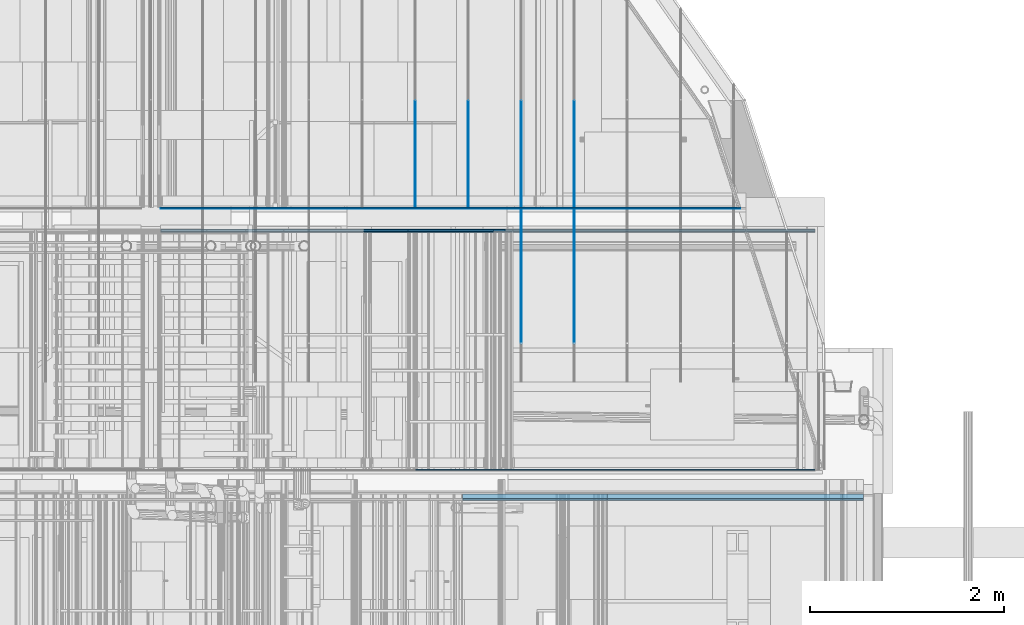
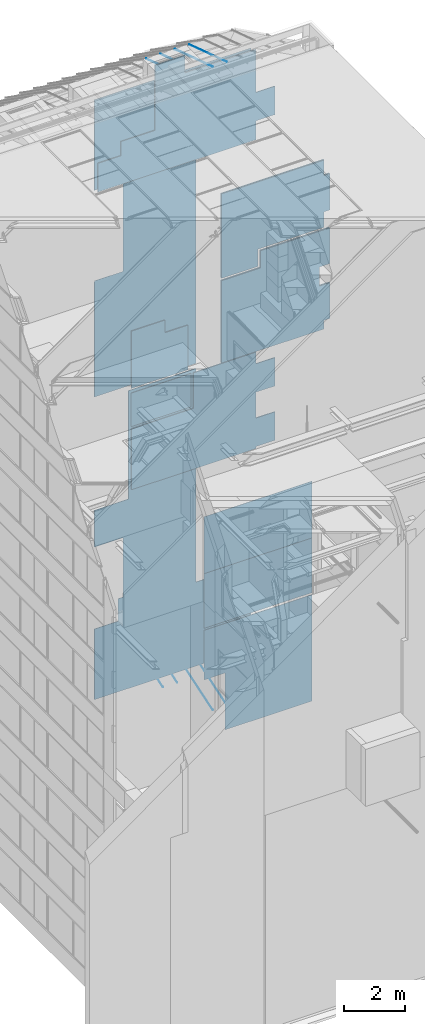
# One storey, part 284 of 583: 26 slabs.
"""IFC2X3 building model written with IfcOpenShell, lengths in metres."""

from ifc_helpers import new_model, entity, si_unit, converted_unit, derived_unit, money_unit, direction, frame, origin_with_axes, place, context, subcontext, project, spatial, faceted_brep, material, type_object, element, save


model = new_model("IFC2X3")

# Units and contexts
model_context = context("Model", 3, precision=1e-05, world=origin_with_axes(), true_north=direction((0.0, 1.0)))
body_context = subcontext(model_context, "Body", "Model", "MODEL_VIEW", scale=1.0)
ifc_project = project(units=[si_unit("LENGTHUNIT", "METRE"), si_unit("AREAUNIT", "SQUARE_METRE"), si_unit("VOLUMEUNIT", "CUBIC_METRE"), si_unit("ABSORBEDDOSEUNIT", "GRAY"), si_unit("AMOUNTOFSUBSTANCEUNIT", "MOLE"), si_unit("DOSEEQUIVALENTUNIT", "SIEVERT"), si_unit("ELECTRICCAPACITANCEUNIT", "FARAD"), si_unit("ELECTRICCHARGEUNIT", "COULOMB"), si_unit("ELECTRICCONDUCTANCEUNIT", "SIEMENS"), si_unit("ELECTRICCURRENTUNIT", "AMPERE"), si_unit("ELECTRICRESISTANCEUNIT", "OHM"), si_unit("ELECTRICVOLTAGEUNIT", "VOLT"), si_unit("ENERGYUNIT", "JOULE"), si_unit("FORCEUNIT", "NEWTON"), si_unit("FREQUENCYUNIT", "HERTZ"), si_unit("ILLUMINANCEUNIT", "LUX"), si_unit("INDUCTANCEUNIT", "HENRY"), si_unit("LUMINOUSFLUXUNIT", "LUMEN"), si_unit("LUMINOUSINTENSITYUNIT", "CANDELA"), si_unit("MAGNETICFLUXDENSITYUNIT", "TESLA"), si_unit("MAGNETICFLUXUNIT", "WEBER"), si_unit("MASSUNIT", "GRAM"), converted_unit("PLANEANGLEUNIT", "degree", entity("IfcReal", 0.0174532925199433), si_unit("PLANEANGLEUNIT", "RADIAN"), dimensions=[0, 0, 0, 0, 0, 0, 0]), si_unit("POWERUNIT", "WATT"), si_unit("PRESSUREUNIT", "PASCAL"), si_unit("RADIOACTIVITYUNIT", "BECQUEREL"), si_unit("SOLIDANGLEUNIT", "STERADIAN"), si_unit("THERMODYNAMICTEMPERATUREUNIT", "KELVIN"), si_unit("TIMEUNIT", "SECOND"), derived_unit("ACCELERATIONUNIT", [(si_unit("LENGTHUNIT", "METRE"), 1), (si_unit("TIMEUNIT", "SECOND"), -2)]), derived_unit("ANGULARVELOCITYUNIT", [(converted_unit("PLANEANGLEUNIT", "degree", entity("IfcReal", 0.0174532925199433), si_unit("PLANEANGLEUNIT", "RADIAN"), dimensions=[0, 0, 0, 0, 0, 0, 0]), 1), (si_unit("TIMEUNIT", "SECOND"), -1)]), derived_unit("CURVATUREUNIT", [(converted_unit("PLANEANGLEUNIT", "degree", entity("IfcReal", 0.0174532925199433), si_unit("PLANEANGLEUNIT", "RADIAN"), dimensions=[0, 0, 0, 0, 0, 0, 0]), 1), (si_unit("LENGTHUNIT", "METRE"), -1)]), derived_unit("DYNAMICVISCOSITYUNIT", [(si_unit("PRESSUREUNIT", "PASCAL"), 1), (si_unit("TIMEUNIT", "SECOND"), 1)]), derived_unit("HEATFLUXDENSITYUNIT", [(si_unit("POWERUNIT", "WATT"), 1), (si_unit("LENGTHUNIT", "METRE"), -2)]), derived_unit("HEATINGVALUEUNIT", [(si_unit("ENERGYUNIT", "JOULE"), 1), (si_unit("MASSUNIT", "GRAM"), -1)]), derived_unit("INTEGERCOUNTRATEUNIT", [(si_unit("TIMEUNIT", "SECOND"), -1)]), derived_unit("IONCONCENTRATIONUNIT", [(si_unit("MASSUNIT", "GRAM"), 1), (si_unit("VOLUMEUNIT", "CUBIC_METRE"), -1)]), derived_unit("ISOTHERMALMOISTURECAPACITYUNIT", [(si_unit("VOLUMEUNIT", "CUBIC_METRE"), 1), (si_unit("MASSUNIT", "GRAM"), -1)]), derived_unit("KINEMATICVISCOSITYUNIT", [(si_unit("AREAUNIT", "SQUARE_METRE"), 1), (si_unit("TIMEUNIT", "SECOND"), -1)]), derived_unit("LINEARFORCEUNIT", [(si_unit("FORCEUNIT", "NEWTON"), 1), (si_unit("LENGTHUNIT", "METRE"), -1)]), derived_unit("LINEARMOMENTUNIT", [(si_unit("FORCEUNIT", "NEWTON"), 1), (si_unit("LENGTHUNIT", "METRE"), -1)]), derived_unit("LINEARSTIFFNESSUNIT", [(si_unit("FORCEUNIT", "NEWTON"), 1), (si_unit("LENGTHUNIT", "METRE"), -1)]), derived_unit("LINEARVELOCITYUNIT", [(si_unit("LENGTHUNIT", "METRE"), 1), (si_unit("TIMEUNIT", "SECOND"), -1)]), derived_unit("LUMINOUSINTENSITYDISTRIBUTIONUNIT", [(si_unit("LUMINOUSINTENSITYUNIT", "CANDELA"), 1), (si_unit("LUMINOUSFLUXUNIT", "LUMEN"), -1)]), derived_unit("MASSDENSITYUNIT", [(si_unit("MASSUNIT", "GRAM"), 1), (si_unit("VOLUMEUNIT", "CUBIC_METRE"), -1)]), derived_unit("MASSFLOWRATEUNIT", [(si_unit("MASSUNIT", "GRAM"), 1), (si_unit("TIMEUNIT", "SECOND"), -1)]), derived_unit("MASSPERLENGTHUNIT", [(si_unit("MASSUNIT", "GRAM"), 1), (si_unit("LENGTHUNIT", "METRE"), -1)]), derived_unit("MODULUSOFELASTICITYUNIT", [(si_unit("FORCEUNIT", "NEWTON"), 1), (si_unit("AREAUNIT", "SQUARE_METRE"), -1)]), derived_unit("MODULUSOFLINEARSUBGRADEREACTIONUNIT", [(si_unit("FORCEUNIT", "NEWTON"), 1), (si_unit("LENGTHUNIT", "METRE"), -2)]), derived_unit("MODULUSOFROTATIONALSUBGRADEREACTIONUNIT", [(si_unit("FORCEUNIT", "NEWTON"), 1), (si_unit("LENGTHUNIT", "METRE"), 1)]), derived_unit("MODULUSOFSUBGRADEREACTIONUNIT", [(si_unit("FORCEUNIT", "NEWTON"), 1), (si_unit("VOLUMEUNIT", "CUBIC_METRE"), -1)]), derived_unit("MOISTUREDIFFUSIVITYUNIT", [(si_unit("VOLUMEUNIT", "CUBIC_METRE"), 1), (si_unit("TIMEUNIT", "SECOND"), -1)]), derived_unit("MOLECULARWEIGHTUNIT", [(si_unit("MASSUNIT", "GRAM"), 1), (si_unit("AMOUNTOFSUBSTANCEUNIT", "MOLE"), -1)]), derived_unit("PLANARFORCEUNIT", [(si_unit("FORCEUNIT", "NEWTON"), 1), (si_unit("LENGTHUNIT", "METRE"), -2)]), derived_unit("ROTATIONALFREQUENCYUNIT", [(si_unit("TIMEUNIT", "SECOND"), -1)]), derived_unit("ROTATIONALMASSUNIT", [(si_unit("MASSUNIT", "GRAM"), 1), (si_unit("LENGTHUNIT", "METRE"), 2)]), derived_unit("ROTATIONALSTIFFNESSUNIT", [(si_unit("FORCEUNIT", "NEWTON"), 1), (si_unit("LENGTHUNIT", "METRE"), 1), (converted_unit("PLANEANGLEUNIT", "degree", entity("IfcReal", 0.0174532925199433), si_unit("PLANEANGLEUNIT", "RADIAN"), dimensions=[0, 0, 0, 0, 0, 0, 0]), -1)]), derived_unit("SECTIONAREAINTEGRALUNIT", [(si_unit("LENGTHUNIT", "METRE"), 5)]), derived_unit("SECTIONMODULUSUNIT", [(si_unit("LENGTHUNIT", "METRE"), 3)]), derived_unit("SHEARMODULUSUNIT", [(si_unit("FORCEUNIT", "NEWTON"), 1), (si_unit("AREAUNIT", "SQUARE_METRE"), -1)]), derived_unit("SOUNDPOWERUNIT", [(si_unit("ENERGYUNIT", "JOULE"), 1), (si_unit("TIMEUNIT", "SECOND"), -1)]), derived_unit("SPECIFICHEATCAPACITYUNIT", [(si_unit("FORCEUNIT", "NEWTON"), 1), (si_unit("MASSUNIT", "GRAM"), -1), (si_unit("THERMODYNAMICTEMPERATUREUNIT", "KELVIN"), -1)]), derived_unit("TEMPERATUREGRADIENTUNIT", [(si_unit("THERMODYNAMICTEMPERATUREUNIT", "KELVIN"), 1), (si_unit("LENGTHUNIT", "METRE"), -1)]), derived_unit("THERMALADMITTANCEUNIT", [(si_unit("POWERUNIT", "WATT"), 1), (si_unit("AREAUNIT", "SQUARE_METRE"), -1), (si_unit("THERMODYNAMICTEMPERATUREUNIT", "KELVIN"), -1)]), derived_unit("THERMALCONDUCTANCEUNIT", [(si_unit("POWERUNIT", "WATT"), 1), (si_unit("LENGTHUNIT", "METRE"), -1), (si_unit("THERMODYNAMICTEMPERATUREUNIT", "KELVIN"), -1)]), derived_unit("THERMALEXPANSIONCOEFFICIENTUNIT", [(si_unit("THERMODYNAMICTEMPERATUREUNIT", "KELVIN"), -1)]), derived_unit("THERMALRESISTANCEUNIT", [(si_unit("AREAUNIT", "SQUARE_METRE"), 1), (si_unit("POWERUNIT", "WATT"), -1)]), derived_unit("THERMALTRANSMITTANCEUNIT", [(si_unit("POWERUNIT", "WATT"), 1), (si_unit("AREAUNIT", "SQUARE_METRE"), -1), (si_unit("THERMODYNAMICTEMPERATUREUNIT", "KELVIN"), -1)]), derived_unit("TORQUEUNIT", [(si_unit("FORCEUNIT", "NEWTON"), 1), (si_unit("LENGTHUNIT", "METRE"), 1)]), derived_unit("VAPORPERMEABILITYUNIT", [(si_unit("MASSUNIT", "GRAM"), 1), (si_unit("TIMEUNIT", "SECOND"), -1)]), derived_unit("VOLUMETRICFLOWRATEUNIT", [(si_unit("VOLUMEUNIT", "CUBIC_METRE"), 1), (si_unit("TIMEUNIT", "SECOND"), -1)]), derived_unit("WARPINGCONSTANTUNIT", [(si_unit("LENGTHUNIT", "METRE"), 6)]), derived_unit("WARPINGMOMENTUNIT", [(si_unit("FORCEUNIT", "NEWTON"), 1), (si_unit("LENGTHUNIT", "METRE"), 2)]), money_unit("GBP")], contexts=[model_context])

# Site, building, storey
site_placement = place(None, origin_with_axes())
site = spatial("IfcSite", under=ifc_project, at=site_placement, Name="Site", CompositionType="ELEMENT")
building_placement = place(site_placement, origin_with_axes())
building = spatial("IfcBuilding", under=site, at=building_placement, Name="Building01", CompositionType="ELEMENT")
storey_placement = place(building_placement, frame((0.0, 0.0, 20.78), z_axis=(0.0, 0.0, 1.0), x_axis=(1.0, 0.0, 0.0)))
storey = spatial("IfcBuildingStorey", under=building, at=storey_placement, Name="RL", CompositionType="ELEMENT", Elevation=20.78)

# Slabs
ifc_material_1 = material(Name="A_BSUK_CeilingSoffitFinishes_Suspended")
slab_type_1 = type_object("IfcSlabType", Name="A-FloorsSlabs A_BSUK_Slabs", PredefinedType="FLOOR")
placement = place(storey_placement, frame((0.0, 0.0, -20.78), z_axis=(0.0, 0.0, 1.0), x_axis=(1.0, 0.0, 0.0)))
element("IfcSlab", 1, at=placement, inside=storey, type_object=slab_type_1, material=ifc_material_1, Name="A-FloorsSlabs A_BSUK_Slabs", ObjectType="CompoundSlabLeaf", context=body_context, shape_type="Brep", body=[
    faceted_brep([(10.665, 14.658, 15.708132), (10.665, 14.673, 15.708132), (14.582, 14.673, 15.708132), (14.582, 14.658, 15.708132), (10.665, 14.658, 19.025284), (10.665, 14.673, 19.025284), (12.159378, 14.658, 19.025284), (12.159378, 14.673, 19.025284), (12.159378, 14.658, 19.715), (12.159378, 14.673, 19.715), (14.8, 14.658, 19.715), (14.8, 14.673, 19.715), (14.8, 14.658, 18.268), (14.8, 14.673, 18.268), (14.402, 14.658, 18.268), (14.402, 14.673, 18.268), (14.402, 14.658, 17.502), (14.402, 14.673, 17.502), (14.8, 14.658, 17.502), (14.8, 14.673, 17.502), (14.8, 14.658, 16.055), (14.8, 14.673, 16.055), (14.582, 14.658, 16.055), (14.582, 14.673, 16.055)], [[[0, 1, 2, 3]], [[4, 5, 1, 0]], [[6, 7, 5, 4]], [[8, 9, 7, 6]], [[10, 11, 9, 8]], [[12, 13, 11, 10]], [[14, 15, 13, 12]], [[16, 17, 15, 14]], [[18, 19, 17, 16]], [[20, 21, 19, 18]], [[22, 23, 21, 20]], [[3, 2, 23, 22]], [[1, 5, 7, 9, 11, 13, 15, 17, 19, 21, 23, 2]], [[3, 22, 20, 18, 16, 14, 12, 10, 8, 6, 4, 0]]]),
])
element("IfcSlab", 2, at=placement, inside=storey, type_object=slab_type_1, material=ifc_material_1, Name="A-FloorsSlabs A_BSUK_Slabs", ObjectType="CompoundSlabLeaf", context=body_context, shape_type="Brep", body=[
    faceted_brep([(12.064378, 14.658, 19.81), (12.064378, 14.673, 19.81), (14.582, 14.673, 19.81), (14.582, 14.658, 19.81), (12.064378, 14.658, 19.120284), (12.064378, 14.673, 19.120284), (10.665, 14.658, 19.120284), (10.665, 14.673, 19.120284), (10.665, 14.658, 22.53), (10.665, 14.673, 22.53), (14.582, 14.658, 22.53), (14.582, 14.673, 22.53), (14.582, 14.658, 21.905), (14.582, 14.673, 21.905), (14.8, 14.658, 21.905), (14.8, 14.673, 21.905), (14.8, 14.658, 20.435), (14.8, 14.673, 20.435), (14.582, 14.658, 20.435), (14.582, 14.673, 20.435)], [[[0, 1, 2, 3]], [[4, 5, 1, 0]], [[6, 7, 5, 4]], [[8, 9, 7, 6]], [[10, 11, 9, 8]], [[12, 13, 11, 10]], [[14, 15, 13, 12]], [[16, 17, 15, 14]], [[18, 19, 17, 16]], [[3, 2, 19, 18]], [[1, 5, 7, 9, 11, 13, 15, 17, 19, 2]], [[3, 18, 16, 14, 12, 10, 8, 6, 4, 0]]]),
])
element("IfcSlab", 3, at=placement, inside=storey, type_object=slab_type_1, material=ifc_material_1, Name="A-FloorsSlabs A_BSUK_Slabs", ObjectType="CompoundSlabLeaf", context=body_context, shape_type="Brep", body=[
    faceted_brep([(8.82, 17.423, 12.017381), (8.82, 17.438, 12.017381), (8.82, 17.438, 9.560024), (8.82, 17.423, 9.560024), (11.183849, 17.423, 12.017381), (11.183849, 17.438, 12.017381), (11.183849, 17.423, 13.45), (11.183849, 17.438, 13.45), (13.587598, 17.423, 13.45), (13.587598, 17.438, 13.45), (13.587598, 17.423, 12.979976), (13.587598, 17.438, 12.979976), (14.300061, 17.423, 12.979976), (14.300061, 17.438, 12.979976), (14.300061, 17.423, 11.830024), (14.300061, 17.438, 11.830024), (13.587598, 17.423, 11.830024), (13.587598, 17.438, 11.830024), (13.587598, 17.423, 10.789976), (13.587598, 17.438, 10.789976), (14.300061, 17.423, 10.789976), (14.300061, 17.438, 10.789976), (14.300061, 17.423, 9.640024), (14.300061, 17.438, 9.640024), (13.587598, 17.423, 9.640024), (13.587598, 17.438, 9.640024), (13.587598, 17.423, 9.560024), (13.587598, 17.438, 9.560024)], [[[0, 1, 2, 3]], [[4, 5, 1, 0]], [[6, 7, 5, 4]], [[8, 9, 7, 6]], [[10, 11, 9, 8]], [[12, 13, 11, 10]], [[14, 15, 13, 12]], [[16, 17, 15, 14]], [[18, 19, 17, 16]], [[20, 21, 19, 18]], [[22, 23, 21, 20]], [[24, 25, 23, 22]], [[26, 27, 25, 24]], [[3, 2, 27, 26]], [[1, 5, 7, 9, 11, 13, 15, 17, 19, 21, 23, 25, 27, 2]], [[3, 26, 24, 22, 20, 18, 16, 14, 12, 10, 8, 6, 4, 0]]]),
])
element("IfcSlab", 4, at=placement, inside=storey, type_object=slab_type_1, material=ifc_material_1, Name="A-FloorsSlabs A_BSUK_Slabs", ObjectType="CompoundSlabLeaf", context=body_context, shape_type="Brep", body=[
    faceted_brep([(7.549915, 17.423, 22.019976), (7.549915, 17.438, 22.019976), (13.587598, 17.438, 22.019976), (13.587598, 17.423, 22.019976), (7.549915, 17.423, 23.178821), (7.549915, 17.438, 23.178821), (8.429915, 17.423, 23.178821), (8.429915, 17.438, 23.178821), (8.429915, 17.423, 23.75), (8.429915, 17.438, 23.75), (9.724915, 17.423, 23.75), (9.724915, 17.438, 23.75), (9.724915, 17.423, 26.380061), (9.724915, 17.438, 26.380061), (10.874915, 17.423, 26.380061), (10.874915, 17.438, 26.380061), (10.874915, 17.423, 25.667598), (10.874915, 17.438, 25.667598), (13.587598, 17.423, 25.667598), (13.587598, 17.438, 25.667598), (13.587598, 17.423, 23.930024), (13.587598, 17.438, 23.930024), (14.300061, 17.423, 23.930024), (14.300061, 17.438, 23.930024), (14.300061, 17.423, 22.780024), (14.300061, 17.438, 22.780024), (13.587598, 17.423, 22.780024), (13.587598, 17.438, 22.780024)], [[[0, 1, 2, 3]], [[4, 5, 1, 0]], [[6, 7, 5, 4]], [[8, 9, 7, 6]], [[10, 11, 9, 8]], [[12, 13, 11, 10]], [[14, 15, 13, 12]], [[16, 17, 15, 14]], [[18, 19, 17, 16]], [[20, 21, 19, 18]], [[22, 23, 21, 20]], [[24, 25, 23, 22]], [[26, 27, 25, 24]], [[3, 2, 27, 26]], [[1, 5, 7, 9, 11, 13, 15, 17, 19, 21, 23, 25, 27, 2]], [[3, 26, 24, 22, 20, 18, 16, 14, 12, 10, 8, 6, 4, 0]]]),
])
element("IfcSlab", 5, at=placement, inside=storey, type_object=slab_type_1, material=ifc_material_1, Name="A-FloorsSlabs A_BSUK_Slabs", ObjectType="CompoundSlabLeaf", context=body_context, shape_type="Brep", body=[
    faceted_brep([(8.82, 17.423, 13.65), (8.82, 17.438, 13.65), (10.983789, 17.438, 13.65), (10.983789, 17.423, 13.65), (8.82, 17.423, 15.95844), (8.82, 17.438, 15.95844), (10.099939, 17.423, 15.95844), (10.099939, 17.438, 15.95844), (10.099939, 17.423, 15.449998), (10.099939, 17.438, 15.449998), (10.983789, 17.423, 15.449998), (10.983789, 17.438, 15.449998)], [[[0, 1, 2, 3]], [[4, 5, 1, 0]], [[6, 7, 5, 4]], [[8, 9, 7, 6]], [[10, 11, 9, 8]], [[3, 2, 11, 10]], [[1, 5, 7, 9, 11, 2]], [[3, 10, 8, 6, 4, 0]]]),
])
element("IfcSlab", 6, at=placement, inside=storey, type_object=slab_type_1, material=ifc_material_1, Name="A-FloorsSlabs A_BSUK_Slabs", ObjectType="CompoundSlabLeaf", context=body_context, shape_type="Brep", body=[
    faceted_brep([(8.82, 17.438, 12.017381), (8.82, 17.453, 12.017381), (8.82, 17.453, 9.560024), (8.82, 17.438, 9.560024), (11.183849, 17.438, 12.017381), (11.183849, 17.453, 12.017381), (11.183849, 17.438, 13.45), (11.183849, 17.453, 13.45), (13.587598, 17.438, 13.45), (13.587598, 17.453, 13.45), (13.587598, 17.438, 12.979976), (13.587598, 17.453, 12.979976), (14.300061, 17.438, 12.979976), (14.300061, 17.453, 12.979976), (14.300061, 17.438, 11.830024), (14.300061, 17.453, 11.830024), (13.587598, 17.438, 11.830024), (13.587598, 17.453, 11.830024), (13.587598, 17.438, 10.789976), (13.587598, 17.453, 10.789976), (14.300061, 17.438, 10.789976), (14.300061, 17.453, 10.789976), (14.300061, 17.438, 9.640024), (14.300061, 17.453, 9.640024), (13.587598, 17.438, 9.640024), (13.587598, 17.453, 9.640024), (13.587598, 17.438, 9.560024), (13.587598, 17.453, 9.560024)], [[[0, 1, 2, 3]], [[4, 5, 1, 0]], [[6, 7, 5, 4]], [[8, 9, 7, 6]], [[10, 11, 9, 8]], [[12, 13, 11, 10]], [[14, 15, 13, 12]], [[16, 17, 15, 14]], [[18, 19, 17, 16]], [[20, 21, 19, 18]], [[22, 23, 21, 20]], [[24, 25, 23, 22]], [[26, 27, 25, 24]], [[3, 2, 27, 26]], [[1, 5, 7, 9, 11, 13, 15, 17, 19, 21, 23, 25, 27, 2]], [[3, 26, 24, 22, 20, 18, 16, 14, 12, 10, 8, 6, 4, 0]]]),
])
element("IfcSlab", 7, at=placement, inside=storey, type_object=slab_type_1, material=ifc_material_1, Name="A-FloorsSlabs A_BSUK_Slabs", ObjectType="CompoundSlabLeaf", context=body_context, shape_type="Brep", body=[
    faceted_brep([(7.549915, 17.438, 22.019976), (7.549915, 17.453, 22.019976), (13.587598, 17.453, 22.019976), (13.587598, 17.438, 22.019976), (7.549915, 17.438, 23.178821), (7.549915, 17.453, 23.178821), (8.429915, 17.438, 23.178821), (8.429915, 17.453, 23.178821), (8.429915, 17.438, 23.75), (8.429915, 17.453, 23.75), (9.724915, 17.438, 23.75), (9.724915, 17.453, 23.75), (9.724915, 17.438, 26.380061), (9.724915, 17.453, 26.380061), (10.874915, 17.438, 26.380061), (10.874915, 17.453, 26.380061), (10.874915, 17.438, 25.667598), (10.874915, 17.453, 25.667598), (13.587598, 17.438, 25.667598), (13.587598, 17.453, 25.667598), (13.587598, 17.438, 23.930024), (13.587598, 17.453, 23.930024), (14.300061, 17.438, 23.930024), (14.300061, 17.453, 23.930024), (14.300061, 17.438, 22.780024), (14.300061, 17.453, 22.780024), (13.587598, 17.438, 22.780024), (13.587598, 17.453, 22.780024)], [[[0, 1, 2, 3]], [[4, 5, 1, 0]], [[6, 7, 5, 4]], [[8, 9, 7, 6]], [[10, 11, 9, 8]], [[12, 13, 11, 10]], [[14, 15, 13, 12]], [[16, 17, 15, 14]], [[18, 19, 17, 16]], [[20, 21, 19, 18]], [[22, 23, 21, 20]], [[24, 25, 23, 22]], [[26, 27, 25, 24]], [[3, 2, 27, 26]], [[1, 5, 7, 9, 11, 13, 15, 17, 19, 21, 23, 25, 27, 2]], [[3, 26, 24, 22, 20, 18, 16, 14, 12, 10, 8, 6, 4, 0]]]),
])
element("IfcSlab", 8, at=placement, inside=storey, type_object=slab_type_1, material=ifc_material_1, Name="A-FloorsSlabs A_BSUK_Slabs", ObjectType="CompoundSlabLeaf", context=body_context, shape_type="Brep", body=[
    faceted_brep([(8.82, 17.438, 12.097381), (8.82, 17.453, 12.097381), (11.103849, 17.453, 12.097381), (11.103849, 17.438, 12.097381), (8.82, 17.438, 13.297256), (8.82, 17.453, 13.297256), (8.82, 17.438, 13.45), (8.82, 17.453, 13.45), (11.103849, 17.438, 13.45), (11.103849, 17.453, 13.45)], [[[0, 1, 2, 3]], [[4, 5, 1, 0]], [[6, 7, 5, 4]], [[8, 9, 7, 6]], [[3, 2, 9, 8]], [[1, 5, 7, 9, 2]], [[3, 8, 6, 4, 0]]]),
])
element("IfcSlab", 9, at=placement, inside=storey, type_object=slab_type_1, material=ifc_material_1, Name="A-FloorsSlabs A_BSUK_Slabs", ObjectType="CompoundSlabLeaf", context=body_context, shape_type="Brep", body=[
    faceted_brep([(8.82, 17.438, 13.65), (8.82, 17.453, 13.65), (10.983789, 17.453, 13.65), (10.983789, 17.438, 13.65), (8.82, 17.438, 15.95844), (8.82, 17.453, 15.95844), (10.099939, 17.438, 15.95844), (10.099939, 17.453, 15.95844), (10.099939, 17.438, 15.449998), (10.099939, 17.453, 15.449998), (10.983789, 17.438, 15.449998), (10.983789, 17.453, 15.449998)], [[[0, 1, 2, 3]], [[4, 5, 1, 0]], [[6, 7, 5, 4]], [[8, 9, 7, 6]], [[10, 11, 9, 8]], [[3, 2, 11, 10]], [[1, 5, 7, 9, 11, 2]], [[3, 10, 8, 6, 4, 0]]]),
])
ifc_material_2 = material(Name="A_BSUK_ExpandedPolystyreneBoards")
element("IfcSlab", 10, at=placement, inside=storey, type_object=slab_type_1, material=ifc_material_2, Name="A-FloorsSlabs A_BSUK_Slabs", ObjectType="CompoundSlabLeaf", context=body_context, shape_type="Brep", body=[
    faceted_brep([(13.530537, 17.665, 1.385263), (13.530537, 17.668, 1.385263), (13.530537, 17.668, 4.780024), (13.530537, 17.665, 4.780024), (7.55, 17.665, 1.385263), (7.55, 17.668, 1.385263), (7.55, 17.665, 4.24), (7.55, 17.668, 4.24), (8.449939, 17.665, 4.24), (8.449939, 17.668, 4.24), (8.449939, 17.665, 5.14), (8.449939, 17.668, 5.14), (8.647427, 17.665, 5.14), (8.647427, 17.668, 5.14), (8.647427, 17.665, 7.54), (8.647427, 17.668, 7.54), (8.646519, 17.665, 7.54), (8.646519, 17.668, 7.54), (7.55, 17.665, 7.54), (7.55, 17.668, 7.54), (7.55, 17.665, 9.03), (7.55, 17.668, 9.03), (8.847353, 17.665, 9.03), (8.847353, 17.668, 9.03), (8.847353, 17.665, 13.4), (8.847353, 17.668, 13.4), (11.419939, 17.665, 13.4), (11.419939, 17.668, 13.4), (11.419939, 17.665, 4.780024), (11.419939, 17.668, 4.780024)], [[[0, 1, 2, 3]], [[4, 5, 1, 0]], [[6, 7, 5, 4]], [[8, 9, 7, 6]], [[10, 11, 9, 8]], [[12, 13, 11, 10]], [[14, 15, 13, 12]], [[16, 17, 15, 14]], [[18, 19, 17, 16]], [[20, 21, 19, 18]], [[22, 23, 21, 20]], [[24, 25, 23, 22]], [[26, 27, 25, 24]], [[28, 29, 27, 26]], [[3, 2, 29, 28]], [[1, 5, 7, 9, 11, 13, 15, 17, 19, 21, 23, 25, 27, 29, 2]], [[3, 28, 26, 24, 22, 20, 18, 16, 14, 12, 10, 8, 6, 4, 0]]]),
])
element("IfcSlab", 11, at=placement, inside=storey, type_object=slab_type_1, material=ifc_material_2, Name="A-FloorsSlabs A_BSUK_Slabs", ObjectType="CompoundSlabLeaf", context=body_context, shape_type="Brep", body=[
    faceted_brep([(13.530537, 17.665, 22.219976), (13.530537, 17.668, 22.219976), (13.530537, 17.668, 25.594737), (13.530537, 17.665, 25.594737), (11.419939, 17.665, 22.219976), (11.419939, 17.668, 22.219976), (11.419939, 17.665, 13.6), (11.419939, 17.668, 13.6), (7.549939, 17.665, 13.6), (7.549939, 17.668, 13.6), (7.549939, 17.665, 18.289976), (7.549939, 17.668, 18.289976), (8.647427, 17.665, 18.289976), (8.647427, 17.668, 18.289976), (8.647427, 17.665, 21.939976), (8.647427, 17.668, 21.939976), (7.549915, 17.665, 21.939976), (7.549915, 17.668, 21.939976), (7.549915, 17.665, 25.594737), (7.549915, 17.668, 25.594737)], [[[0, 1, 2, 3]], [[4, 5, 1, 0]], [[6, 7, 5, 4]], [[8, 9, 7, 6]], [[10, 11, 9, 8]], [[12, 13, 11, 10]], [[14, 15, 13, 12]], [[16, 17, 15, 14]], [[18, 19, 17, 16]], [[3, 2, 19, 18]], [[1, 5, 7, 9, 11, 13, 15, 17, 19, 2]], [[3, 18, 16, 14, 12, 10, 8, 6, 4, 0]]]),
])
ifc_material_3 = material(Name="A_BSUK_Parquet_Floor")
element("IfcSlab", 12, at=placement, inside=storey, type_object=slab_type_1, material=ifc_material_3, Name="A-FloorsSlabs A_BSUK_Slabs", ObjectType="CompoundSlabLeaf", context=body_context, shape_type="Brep", body=[
    faceted_brep([(13.530537, 17.668, 1.385263), (13.530537, 17.68, 1.385263), (13.530537, 17.68, 4.780024), (13.530537, 17.668, 4.780024), (7.55, 17.668, 1.385263), (7.55, 17.68, 1.385263), (7.55, 17.668, 4.24), (7.55, 17.68, 4.24), (8.449939, 17.668, 4.24), (8.449939, 17.68, 4.24), (8.449939, 17.668, 5.14), (8.449939, 17.68, 5.14), (8.647427, 17.668, 5.14), (8.647427, 17.68, 5.14), (8.647427, 17.668, 7.54), (8.647427, 17.68, 7.54), (7.55, 17.668, 7.54), (7.55, 17.68, 7.54), (7.55, 17.668, 9.03), (7.55, 17.68, 9.03), (8.847353, 17.668, 9.03), (8.847353, 17.68, 9.03), (8.847353, 17.668, 13.4), (8.847353, 17.68, 13.4), (11.419939, 17.668, 13.4), (11.419939, 17.68, 13.4), (11.419939, 17.668, 4.780024), (11.419939, 17.68, 4.780024)], [[[0, 1, 2, 3]], [[4, 5, 1, 0]], [[6, 7, 5, 4]], [[8, 9, 7, 6]], [[10, 11, 9, 8]], [[12, 13, 11, 10]], [[14, 15, 13, 12]], [[16, 17, 15, 14]], [[18, 19, 17, 16]], [[20, 21, 19, 18]], [[22, 23, 21, 20]], [[24, 25, 23, 22]], [[26, 27, 25, 24]], [[3, 2, 27, 26]], [[1, 5, 7, 9, 11, 13, 15, 17, 19, 21, 23, 25, 27, 2]], [[3, 26, 24, 22, 20, 18, 16, 14, 12, 10, 8, 6, 4, 0]]]),
])
element("IfcSlab", 13, at=placement, inside=storey, type_object=slab_type_1, material=ifc_material_3, Name="A-FloorsSlabs A_BSUK_Slabs", ObjectType="CompoundSlabLeaf", context=body_context, shape_type="Brep", body=[
    faceted_brep([(13.530537, 17.668, 22.219976), (13.530537, 17.68, 22.219976), (13.530537, 17.68, 25.594737), (13.530537, 17.668, 25.594737), (11.419939, 17.668, 22.219976), (11.419939, 17.68, 22.219976), (11.419939, 17.668, 13.6), (11.419939, 17.68, 13.6), (7.549939, 17.668, 13.6), (7.549939, 17.68, 13.6), (7.549939, 17.668, 18.239976), (7.549939, 17.68, 18.239976), (8.647427, 17.668, 18.239976), (8.647427, 17.68, 18.239976), (8.647427, 17.668, 21.939976), (8.647427, 17.68, 21.939976), (7.549915, 17.668, 21.939976), (7.549915, 17.68, 21.939976), (7.549915, 17.668, 25.594737), (7.549915, 17.68, 25.594737)], [[[0, 1, 2, 3]], [[4, 5, 1, 0]], [[6, 7, 5, 4]], [[8, 9, 7, 6]], [[10, 11, 9, 8]], [[12, 13, 11, 10]], [[14, 15, 13, 12]], [[16, 17, 15, 14]], [[18, 19, 17, 16]], [[3, 2, 19, 18]], [[1, 5, 7, 9, 11, 13, 15, 17, 19, 2]], [[3, 18, 16, 14, 12, 10, 8, 6, 4, 0]]]),
])
ifc_material_4 = material(Name="A_BSUK_Roofs")
for number, where, z_axis, x_axis, name in (
    (14, (10.180953, 16.274427, 5.68), (0.0, 1.0, 0.0), (1.0, 0.0, 0.0), "A-FloorsSlabs A_BSUK_Slabs"),
    (15, (10.728453, 16.274427, 5.68), (0.0, 1.0, 0.0), (1.0, 0.0, 0.0), "A-FloorsSlabs A_BSUK_Slabs"),
):
    element("IfcSlab", number, at=place(storey_placement, frame(where, z_axis=z_axis, x_axis=x_axis)), inside=storey, type_object=slab_type_1, material=ifc_material_4, Name=name, ObjectType="A-FloorsSlabs A_BSUK_Slabs", context=body_context, shape_type="Brep", body=[
        faceted_brep([(0.0, 0.81426, 2.506034), (0.0, 0.795239, 2.512214), (0.0, 0.437706, 1.411842), (0.0, 0.456727, 1.405662), (-0.01, 0.437706, 1.411842), (-0.01, 0.456727, 1.405662), (-0.01, 0.795239, 2.512214), (-0.01, 0.81426, 2.506034)], [[[0, 1, 2, 3]], [[3, 2, 4, 5]], [[5, 4, 6, 7]], [[7, 6, 1, 0]], [[1, 6, 4, 2]], [[3, 5, 7, 0]]]),
    ])
slab_14_placement = place(storey_placement, frame((11.275953, 16.274427, 5.68), z_axis=(0.0, 1.0, 0.0), x_axis=(1.0, 0.0, 0.0)))
element("IfcSlab", 16, at=slab_14_placement, inside=storey, type_object=slab_type_1, material=ifc_material_4, Name="A-FloorsSlabs A_BSUK_Slabs", ObjectType="A-FloorsSlabs A_BSUK_Slabs", context=body_context, shape_type="Brep", body=[
    faceted_brep([(0.0, 0.81426, 2.506034), (0.0, 0.795239, 2.512214), (0.0, -0.019021, 0.00618), (0.0, 0.0, 0.0), (-0.01, -0.019021, 0.00618), (-0.01, 0.0, 0.0), (-0.01, 0.795239, 2.512214), (-0.01, 0.81426, 2.506034)], [[[0, 1, 2, 3]], [[3, 2, 4, 5]], [[5, 4, 6, 7]], [[7, 6, 1, 0]], [[1, 6, 4, 2]], [[3, 5, 7, 0]]]),
])
slab_15_placement = place(storey_placement, frame((9.613453, 16.274427, 5.68), z_axis=(0.0, 1.0, 0.0), x_axis=(1.0, 0.0, 0.0)))
element("IfcSlab", 17, at=slab_15_placement, inside=storey, type_object=slab_type_1, material=ifc_material_4, Name="A-FloorsSlabs A_BSUK_Slabs", ObjectType="A-FloorsSlabs A_BSUK_Slabs", context=body_context, shape_type="Brep", body=[
    faceted_brep([(2.2, 0.0, 0.0), (2.2, -0.019021, 0.00618), (2.2, 0.795239, 2.512214), (2.2, 0.81426, 2.506034), (2.21, 0.0, 0.0), (2.21, -0.019021, 0.00618), (2.21, 0.81426, 2.506034), (2.21, 0.795239, 2.512214)], [[[0, 1, 2, 3]], [[4, 5, 1, 0]], [[6, 7, 5, 4]], [[3, 2, 7, 6]], [[1, 5, 7, 2]], [[3, 6, 4, 0]]]),
])
for number, where, z_axis, x_axis, name in (
    (18, (10.180953, 16.274427, -20.26), (0.0, 1.0, 0.0), (-1.0, 0.0, 0.0), "A-FloorsSlabs A_BSUK_Slabs"),
    (19, (10.728453, 16.274427, -20.26), (0.0, 1.0, 0.0), (-1.0, 0.0, 0.0), "A-FloorsSlabs A_BSUK_Slabs"),
):
    element("IfcSlab", number, at=place(storey_placement, frame(where, z_axis=z_axis, x_axis=x_axis)), inside=storey, type_object=slab_type_1, material=ifc_material_4, Name=name, ObjectType="A-FloorsSlabs A_BSUK_Slabs", context=body_context, shape_type="Brep", body=[
        faceted_brep([(0.0, 0.456727, 1.405662), (0.0, 0.437706, 1.411842), (0.0, 0.795239, 2.512214), (0.0, 0.81426, 2.506034), (0.01, 0.456727, 1.405662), (0.01, 0.437706, 1.411842), (0.01, 0.81426, 2.506034), (0.01, 0.795239, 2.512214)], [[[0, 1, 2, 3]], [[4, 5, 1, 0]], [[6, 7, 5, 4]], [[3, 2, 7, 6]], [[1, 5, 7, 2]], [[3, 6, 4, 0]]]),
    ])
slab_16_placement = place(storey_placement, frame((11.275953, 16.274427, -20.26), z_axis=(0.0, 1.0, 0.0), x_axis=(-1.0, 0.0, 0.0)))
element("IfcSlab", 20, at=slab_16_placement, inside=storey, type_object=slab_type_1, material=ifc_material_4, Name="A-FloorsSlabs A_BSUK_Slabs", ObjectType="A-FloorsSlabs A_BSUK_Slabs", context=body_context, shape_type="Brep", body=[
    faceted_brep([(0.0, 0.0, 0.0), (0.0, -0.019021, 0.00618), (0.0, 0.795239, 2.512214), (0.0, 0.81426, 2.506034), (0.01, 0.0, 0.0), (0.01, -0.019021, 0.00618), (0.01, 0.81426, 2.506034), (0.01, 0.795239, 2.512214)], [[[0, 1, 2, 3]], [[4, 5, 1, 0]], [[6, 7, 5, 4]], [[3, 2, 7, 6]], [[1, 5, 7, 2]], [[3, 6, 4, 0]]]),
])
slab_17_placement = place(storey_placement, frame((9.613453, 16.274427, -20.26), z_axis=(0.0, 1.0, 0.0), x_axis=(-1.0, 0.0, 0.0)))
element("IfcSlab", 21, at=slab_17_placement, inside=storey, type_object=slab_type_1, material=ifc_material_4, Name="A-FloorsSlabs A_BSUK_Slabs", ObjectType="A-FloorsSlabs A_BSUK_Slabs", context=body_context, shape_type="Brep", body=[
    faceted_brep([(-2.2, 0.81426, 2.506034), (-2.2, 0.795239, 2.512214), (-2.2, -0.019021, 0.00618), (-2.2, 0.0, 0.0), (-2.21, -0.019021, 0.00618), (-2.21, 0.0, 0.0), (-2.21, 0.795239, 2.512214), (-2.21, 0.81426, 2.506034)], [[[0, 1, 2, 3]], [[3, 2, 4, 5]], [[5, 4, 6, 7]], [[7, 6, 1, 0]], [[1, 6, 4, 2]], [[3, 5, 7, 0]]]),
])
slab_type_2 = type_object("IfcSlabType", Name="A-FloorsSlabs A_BSUK_ExpandedPolystyreneBoards", PredefinedType="FLOOR")
element("IfcSlab", 22, at=placement, inside=storey, type_object=slab_type_2, material=ifc_material_2, Name="A-FloorsSlabs A_BSUK_ExpandedPolystyreneBoards", ObjectType="CompoundSlabLeaf", context=body_context, shape_type="Brep", body=[
    faceted_brep([(10.665, 14.673, 15.708132), (10.665, 14.723, 15.708132), (14.582, 14.723, 15.708132), (14.582, 14.673, 15.708132), (10.665, 14.673, 19.025284), (10.665, 14.723, 19.025284), (12.159378, 14.673, 19.025284), (12.159378, 14.723, 19.025284), (12.159378, 14.673, 19.715), (12.159378, 14.723, 19.715), (14.8, 14.673, 19.715), (14.8, 14.723, 19.715), (14.8, 14.673, 18.268), (14.8, 14.723, 18.268), (14.402, 14.673, 18.268), (14.402, 14.723, 18.268), (14.402, 14.673, 17.502), (14.402, 14.723, 17.502), (14.8, 14.673, 17.502), (14.8, 14.723, 17.502), (14.8, 14.673, 16.055), (14.8, 14.723, 16.055), (14.582, 14.673, 16.055), (14.582, 14.723, 16.055)], [[[0, 1, 2, 3]], [[4, 5, 1, 0]], [[6, 7, 5, 4]], [[8, 9, 7, 6]], [[10, 11, 9, 8]], [[12, 13, 11, 10]], [[14, 15, 13, 12]], [[16, 17, 15, 14]], [[18, 19, 17, 16]], [[20, 21, 19, 18]], [[22, 23, 21, 20]], [[3, 2, 23, 22]], [[1, 5, 7, 9, 11, 13, 15, 17, 19, 21, 23, 2]], [[3, 22, 20, 18, 16, 14, 12, 10, 8, 6, 4, 0]]]),
])
element("IfcSlab", 23, at=placement, inside=storey, type_object=slab_type_2, material=ifc_material_2, Name="A-FloorsSlabs A_BSUK_ExpandedPolystyreneBoards", ObjectType="CompoundSlabLeaf", context=body_context, shape_type="Brep", body=[
    faceted_brep([(12.064378, 14.673, 19.81), (12.064378, 14.723, 19.81), (14.582, 14.723, 19.81), (14.582, 14.673, 19.81), (12.064378, 14.673, 19.120284), (12.064378, 14.723, 19.120284), (10.665, 14.673, 19.120284), (10.665, 14.723, 19.120284), (10.665, 14.673, 22.53), (10.665, 14.723, 22.53), (14.582, 14.673, 22.53), (14.582, 14.723, 22.53), (14.582, 14.673, 21.905), (14.582, 14.723, 21.905), (14.8, 14.673, 21.905), (14.8, 14.723, 21.905), (14.8, 14.673, 20.435), (14.8, 14.723, 20.435), (14.582, 14.673, 20.435), (14.582, 14.723, 20.435)], [[[0, 1, 2, 3]], [[4, 5, 1, 0]], [[6, 7, 5, 4]], [[8, 9, 7, 6]], [[10, 11, 9, 8]], [[12, 13, 11, 10]], [[14, 15, 13, 12]], [[16, 17, 15, 14]], [[18, 19, 17, 16]], [[3, 2, 19, 18]], [[1, 5, 7, 9, 11, 13, 15, 17, 19, 2]], [[3, 18, 16, 14, 12, 10, 8, 6, 4, 0]]]),
])
ifc_material_5 = material(Name="A_BSUK_Carpet-Pile")
slab_type_3 = type_object("IfcSlabType", Name="A-Finishes A_BSUK_Carpet-Pile", PredefinedType="FLOOR")
element("IfcSlab", 24, at=placement, inside=storey, type_object=slab_type_3, material=ifc_material_5, Name="A-Finishes A_BSUK_Carpet-Pile", ObjectType="CompoundSlabLeaf", context=body_context, shape_type="Brep", body=[
    faceted_brep([(10.979915, 14.968, 0.6038), (10.979915, 14.98, 0.6038), (14.2962, 14.98, 0.6038), (14.2962, 14.968, 0.6038), (10.979915, 14.968, 2.9), (10.979915, 14.98, 2.9), (10.179939, 14.968, 2.9), (10.179939, 14.98, 2.9), (10.179939, 14.968, 4.900024), (10.179939, 14.98, 4.900024), (14.2962, 14.968, 4.900024), (14.2962, 14.98, 4.900024), (14.2962, 14.968, 4.219976), (14.2962, 14.98, 4.219976), (14.2962, 14.968, 3.070024), (14.2962, 14.98, 3.070024)], [[[0, 1, 2, 3]], [[4, 5, 1, 0]], [[6, 7, 5, 4]], [[8, 9, 7, 6]], [[10, 11, 9, 8]], [[12, 13, 11, 10]], [[14, 15, 13, 12]], [[3, 2, 15, 14]], [[1, 5, 7, 9, 11, 13, 15, 2]], [[3, 14, 12, 10, 8, 6, 4, 0]]]),
])
element("IfcSlab", 25, at=placement, inside=storey, type_object=slab_type_3, material=ifc_material_5, Name="A-Finishes A_BSUK_Carpet-Pile", ObjectType="CompoundSlabLeaf", context=body_context, shape_type="Brep", body=[
    faceted_brep([(10.179939, 14.968, 4.980024), (10.179939, 14.98, 4.980024), (14.2962, 14.98, 4.980024), (14.2962, 14.968, 4.980024), (10.179939, 14.968, 7.190024), (10.179939, 14.98, 7.190024), (14.2962, 14.968, 7.190024), (14.2962, 14.98, 7.190024), (14.2962, 14.968, 6.410024), (14.2962, 14.98, 6.410024), (14.2962, 14.968, 5.260024), (14.2962, 14.98, 5.260024)], [[[0, 1, 2, 3]], [[4, 5, 1, 0]], [[6, 7, 5, 4]], [[8, 9, 7, 6]], [[10, 11, 9, 8]], [[3, 2, 11, 10]], [[1, 5, 7, 9, 11, 2]], [[3, 10, 8, 6, 4, 0]]]),
])
element("IfcSlab", 26, at=placement, inside=storey, type_object=slab_type_3, material=ifc_material_5, Name="A-Finishes A_BSUK_Carpet-Pile", ObjectType="CompoundSlabLeaf", context=body_context, shape_type="Brep", body=[
    faceted_brep([(10.179939, 14.968, 9.480024), (10.179939, 14.98, 9.480024), (10.179939, 14.98, 7.190024), (10.179939, 14.968, 7.190024), (14.2962, 14.968, 9.480024), (14.2962, 14.98, 9.480024), (14.2962, 14.968, 8.600024), (14.2962, 14.98, 8.600024), (14.2962, 14.968, 7.450024), (14.2962, 14.98, 7.450024), (14.2962, 14.968, 7.190024), (14.2962, 14.98, 7.190024)], [[[0, 1, 2, 3]], [[4, 5, 1, 0]], [[6, 7, 5, 4]], [[8, 9, 7, 6]], [[10, 11, 9, 8]], [[3, 2, 11, 10]], [[1, 5, 7, 9, 11, 2]], [[3, 10, 8, 6, 4, 0]]]),
])

save(model, "model.ifc")
